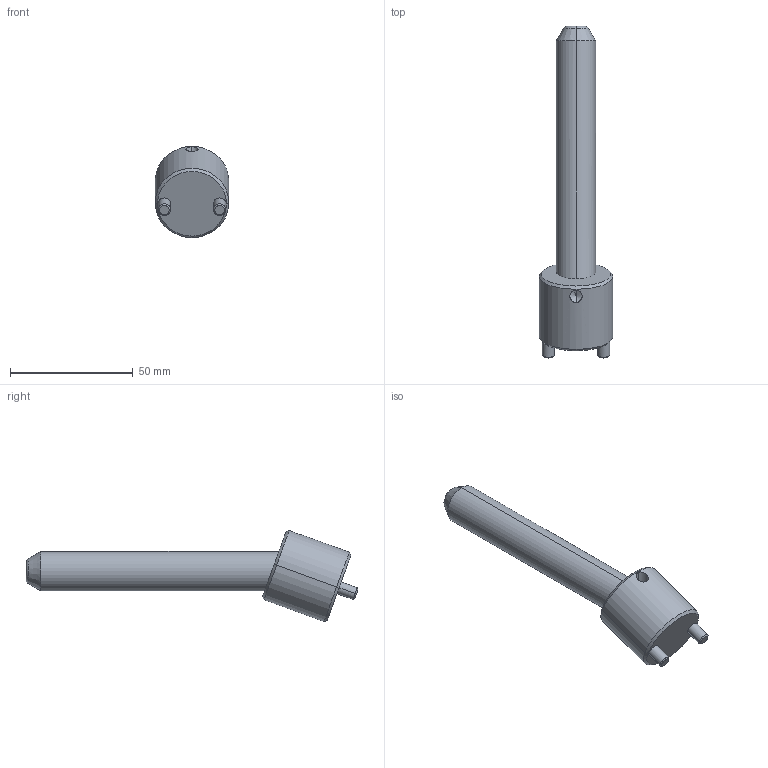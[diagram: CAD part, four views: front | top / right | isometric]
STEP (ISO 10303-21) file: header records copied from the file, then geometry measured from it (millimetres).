
FILE_DESCRIPTION(('CATIA V5 STEP Exchange'),'2;1');
FILE_NAME('C:\Users\Raffaele\Desktop\3D BOLEX\3D FILES CF BOLEX\19-INCLINED ASSEMBLY REF_CI\CI2016100.stp','2019-06-24T06:40:21+00:00',('none'),('none'),'CATIA Version 5 Release 20 GA (IN-10)','CATIA V5 STEP AP203','none');
FILE_SCHEMA(('CONFIG_CONTROL_DESIGN'));
Length unit declared in the file: millimetre
Products named in the file (1): CI2016100
Assembly tree (2 placements, depth 2):
  CI2016100
    #58
    #578
Bounding box: 30 x 135.07 x 37.08 mm (x, y, z)
Volume: 39364.8 mm3; surface area: 11949 mm2
Topology: 2 solids, 2 shells, 39 faces, 82 edges, 47 vertices
Faces by surface type: cone 14, cylinder 14, plane 7, torus 4
Entity records: 1479 total; most frequent: CARTESIAN_POINT 620, ORIENTED_EDGE 160, DIRECTION 145, EDGE_CURVE 80, AXIS2_PLACEMENT_3D 72, VERTEX_POINT 47, EDGE_LOOP 43, ADVANCED_FACE 39
